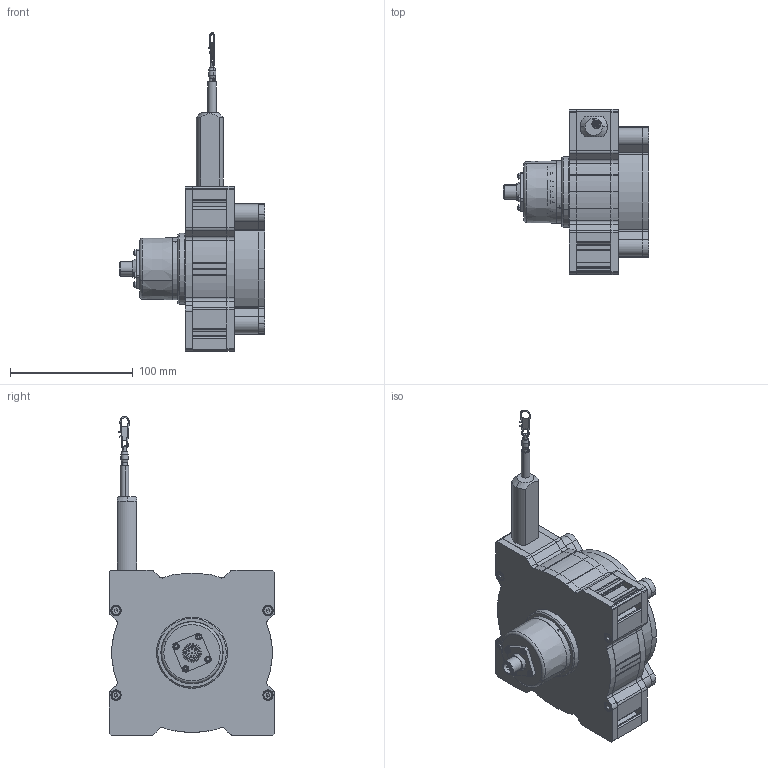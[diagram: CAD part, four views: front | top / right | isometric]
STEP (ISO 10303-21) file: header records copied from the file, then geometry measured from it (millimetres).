
FILE_DESCRIPTION (( 'STEP AP214' ), '1' );
FILE_NAME ('D8.4D1.0800.0053.2000.STEP', '2009-05-12T08:50:32', ( 'admin' ), ( 'Fritz Kübler GmbH' ), 'SwSTEP 2.0', 'SolidWorks 2009', '' );
FILE_SCHEMA (( 'AUTOMOTIVE_DESIGN' ));
Length unit declared in the file: millimetre
Products named in the file (1): D8.4D1.0800.0053.2000
Bounding box: 119 x 135 x 260.32 mm (x, y, z)
Volume: 399915.6 mm3; surface area: 199292 mm2
Topology: 30 solids, 30 shells, 1532 faces, 4051 edges, 2598 vertices
Faces by surface type: cylinder 699, plane 503, cone 182, torus 94, sphere 36, bspline 18
Entity records: 67358 total; most frequent: CARTESIAN_POINT 11330, DIRECTION 8655, ORIENTED_EDGE 7934, EDGE_CURVE 3967, AXIS2_PLACEMENT_3D 3388, VERTEX_POINT 2569, VECTOR 1879, LINE 1879
